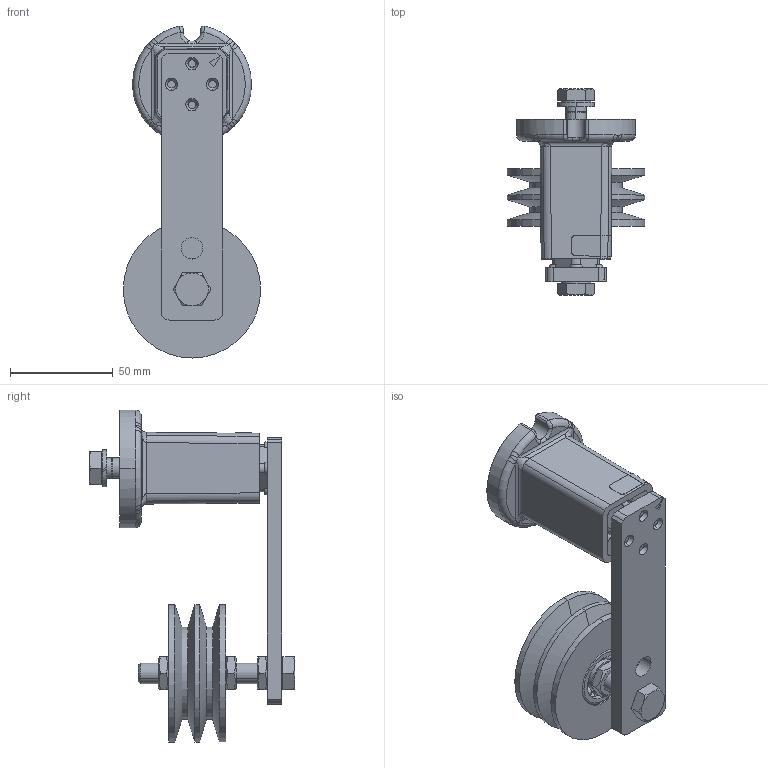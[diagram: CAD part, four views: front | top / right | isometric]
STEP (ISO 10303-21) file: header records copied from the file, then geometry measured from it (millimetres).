
FILE_DESCRIPTION((''),'2;1');
FILE_NAME('\\rostaofc\data\uw\save\daten_f\Normprogramm 3D\Spannelemente\KSE18-SPZ2_06201002.stp','2004-09-28T11:17:08',('uw'),(''),'Autodesk Inventor 8','Autodesk Inventor 8','');
FILE_SCHEMA(('AUTOMOTIVE_DESIGN { 1 0 10303 214 1 1 1 1 }'));
Length unit declared in the file: millimetre
Products named in the file (17): ROSTA-Spannelement KSE 18 SPZ 63-2; ROSTA-Spannelement SE-R18; Gehäuse SE18; Innenteil zu SE-R18; Hebel zu SE18 (m. 2- Loch); 4_10_7386-001; 06408424-002; SK3234-004; 3_10_7387-001; Sechskantschraube - M10 x 30; Federring - A 10; Keilriemenscheibe SPZ 63-2 komplett; Keilriemenscheibe SPZ 63-2 bearbeitet; Kugellager 6200-Z2; Distanzbüchse zu Keilriemenscheibe SPZ 63-2; Sechskantmutter - M10; Sechskantschraube - M10 x 70
Assembly tree (22 placements, depth 4):
  ROSTA-Spannelement KSE 18 SPZ 63-2
    ROSTA-Spannelement SE-R18
      Gehäuse SE18
      Innenteil zu SE-R18
        Hebel zu SE18 (m. 2- Loch)
        4_10_7386-001
      06408424-002
      SK3234-004
      3_10_7387-001  x4
      Sechskantschraube - M10 x 30
      Federring - A 10
    Keilriemenscheibe SPZ 63-2 komplett
      Keilriemenscheibe SPZ 63-2 bearbeitet
      Kugellager 6200-Z2  x2
      Distanzbüchse zu Keilriemenscheibe SPZ 63-2
    Sechskantmutter - M10  x3
    Sechskantschraube - M10 x 70
Bounding box: 67 x 100.3 x 161.89 mm (x, y, z)
Volume: 179365.3 mm3; surface area: 81025.9 mm2
Topology: 32 solids, 32 shells, 502 faces, 1261 edges, 688 vertices
Faces by surface type: cylinder 140, plane 140, bspline 102, cone 56, sphere 40, torus 24
Entity records: 12973 total; most frequent: CARTESIAN_POINT 3902, DIRECTION 2001, ORIENTED_EDGE 1758, EDGE_CURVE 879, AXIS2_PLACEMENT_3D 845, VERTEX_POINT 520, CIRCLE 462, EDGE_LOOP 406
